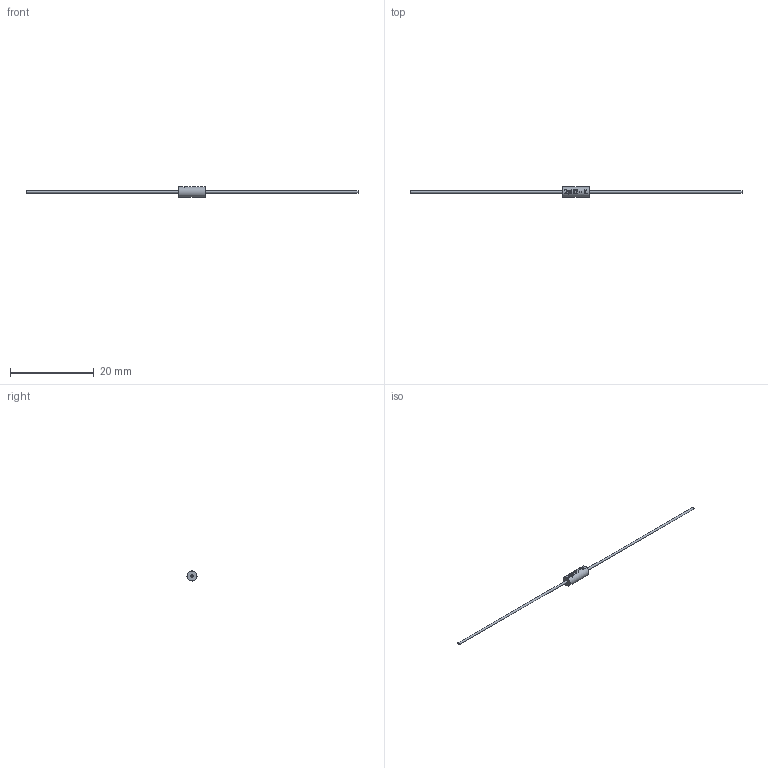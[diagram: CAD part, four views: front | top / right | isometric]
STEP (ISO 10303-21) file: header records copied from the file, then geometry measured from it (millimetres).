
FILE_DESCRIPTION(/* description */ (''),/* implementation_level */ '2;1');
FILE_NAME(/* name */ '\\Snap1\dwgs\Customer 3D Models\550\550-3399.stp',/* time_stamp */ '2016-12-22T15:47:37+00:00',/* author */ ('P. Karlsons'),/* organization */ (''),/* preprocessor_version */ 'ST-DEVELOPER v15.2',/* originating_system */ 'Autodesk Inventor 2014',/* authorisation */ '');
FILE_SCHEMA (('CONFIG_CONTROL_DESIGN'));
Length unit declared in the file: millimetre
Products named in the file (1): 550-3399
Bounding box: 79.4 x 2.41 x 2.42 mm (x, y, z)
Volume: 43.9 mm3; surface area: 174.5 mm2
Topology: 1 solids, 1 shells, 90 faces, 240 edges, 160 vertices
Faces by surface type: plane 55, bspline 26, cylinder 9
Full cylindrical faces by diameter (mm): 0.51 x2, 2.41 x1
Entity records: 3370 total; most frequent: CARTESIAN_POINT 1128, ORIENTED_EDGE 474, DIRECTION 377, EDGE_CURVE 237, VERTEX_POINT 160, AXIS2_PLACEMENT_3D 127, LINE 123, VECTOR 123
